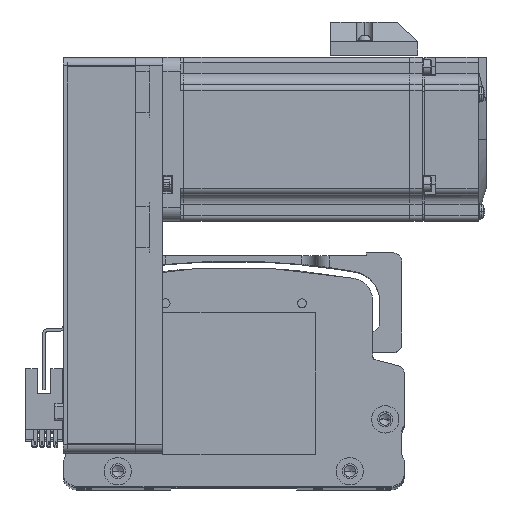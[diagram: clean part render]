
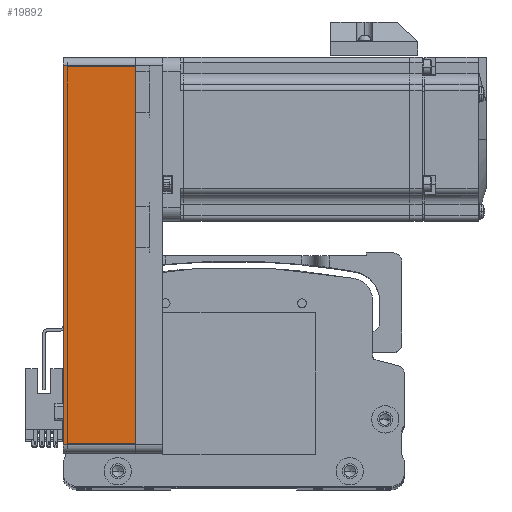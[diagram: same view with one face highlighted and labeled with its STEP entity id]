
A CAD part, top view. The second image highlights one B-rep face of the part: STEP entity #19892.
In plain terms, the highlighted planar face has unit normal (0, 0, 1) as drawn and (0, -1, 0) by its records, which use the part's own axes.
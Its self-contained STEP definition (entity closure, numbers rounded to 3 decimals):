
#660 = LINE ( 'NONE', #62262, #48900 ) ;
#4177 = CARTESIAN_POINT ( 'NONE',  ( 72.5, -30., 26.5 ) ) ;
#4432 = LINE ( 'NONE', #5480, #52753 ) ;
#5313 = VERTEX_POINT ( 'NONE', #44433 ) ;
#5480 = CARTESIAN_POINT ( 'NONE',  ( 69.5, -30., 26.5 ) ) ;
#5715 = CARTESIAN_POINT ( 'NONE',  ( 72.5, -30., 26.5 ) ) ;
#7645 = CARTESIAN_POINT ( 'NONE',  ( 69.5, -30., 26.5 ) ) ;
#8906 = ORIENTED_EDGE ( 'NONE', *, *, #71124, .T. ) ;
#9669 = CARTESIAN_POINT ( 'NONE',  ( -69.5, -30., 26.5 ) ) ;
#10498 = DIRECTION ( 'NONE',  ( -1., 0., 0. ) ) ;
#14458 = CARTESIAN_POINT ( 'NONE',  ( -69.5, -30., 0. ) ) ;
#16685 = CARTESIAN_POINT ( 'NONE',  ( 72.5, -30., 0. ) ) ;
#17544 = EDGE_CURVE ( 'NONE', #5313, #76157, #4432, .T. ) ;
#18567 = LINE ( 'NONE', #5715, #20562 ) ;
#18683 = FACE_OUTER_BOUND ( 'NONE', #68415, .T. ) ;
#19892 = ADVANCED_FACE ( 'NONE', ( #18683 ), #41653, .F. ) ;
#20562 = VECTOR ( 'NONE', #49795, 1000. ) ;
#21014 = VECTOR ( 'NONE', #41749, 1000. ) ;
#26665 = AXIS2_PLACEMENT_3D ( 'NONE', #4177, #48233, #10498 ) ;
#35820 = LINE ( 'NONE', #16685, #21014 ) ;
#39653 = ORIENTED_EDGE ( 'NONE', *, *, #51101, .F. ) ;
#41653 = PLANE ( 'NONE',  #26665 ) ;
#41749 = DIRECTION ( 'NONE',  ( 1., 0., 0. ) ) ;
#44433 = CARTESIAN_POINT ( 'NONE',  ( 69.5, -30., 0. ) ) ;
#48233 = DIRECTION ( 'NONE',  ( 0., 1., 0. ) ) ;
#48900 = VECTOR ( 'NONE', #68869, 1000. ) ;
#49545 = DIRECTION ( 'NONE',  ( 0., 0., 1. ) ) ;
#49795 = DIRECTION ( 'NONE',  ( 1., 0., 0. ) ) ;
#51101 = EDGE_CURVE ( 'NONE', #80302, #76157, #18567, .T. ) ;
#52753 = VECTOR ( 'NONE', #49545, 1000. ) ;
#60668 = ORIENTED_EDGE ( 'NONE', *, *, #17544, .T. ) ;
#62262 = CARTESIAN_POINT ( 'NONE',  ( -69.5, -30., 26.5 ) ) ;
#64778 = VERTEX_POINT ( 'NONE', #14458 ) ;
#68415 = EDGE_LOOP ( 'NONE', ( #8906, #60668, #39653, #69331 ) ) ;
#68869 = DIRECTION ( 'NONE',  ( 0., 0., -1. ) ) ;
#69331 = ORIENTED_EDGE ( 'NONE', *, *, #70414, .T. ) ;
#70414 = EDGE_CURVE ( 'NONE', #80302, #64778, #660, .T. ) ;
#71124 = EDGE_CURVE ( 'NONE', #64778, #5313, #35820, .T. ) ;
#76157 = VERTEX_POINT ( 'NONE', #7645 ) ;
#80302 = VERTEX_POINT ( 'NONE', #9669 ) ;
